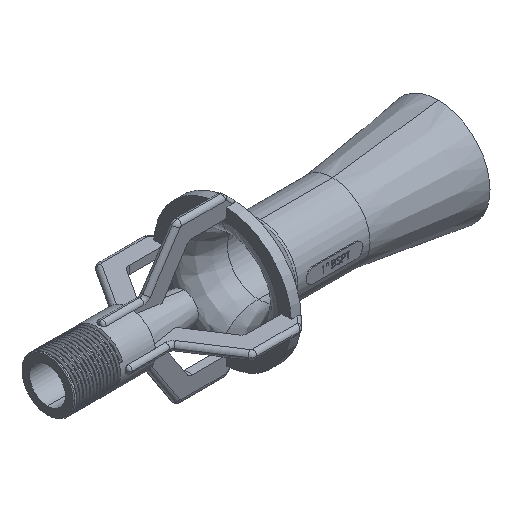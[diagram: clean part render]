
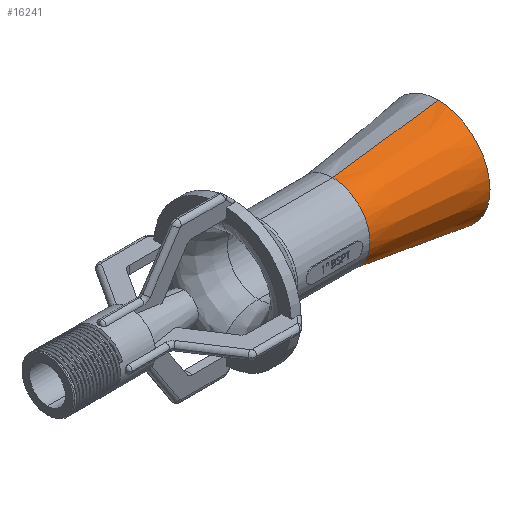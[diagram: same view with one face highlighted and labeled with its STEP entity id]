
A CAD part, isometric view. The second image highlights one B-rep face of the part: STEP entity #16241.
In plain terms, the highlighted conical face has half-angle 7.883 degrees and reference radius 32 mm.
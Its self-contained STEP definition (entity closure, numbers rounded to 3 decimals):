
#158 = VERTEX_POINT ( 'NONE', #2668 ) ;
#768 = CONICAL_SURFACE ( 'NONE', #11402, 32., 0.138 ) ;
#2182 = DIRECTION ( 'NONE',  ( 0., 0., 1. ) ) ;
#2657 = EDGE_CURVE ( 'NONE', #18870, #11357, #15760, .T. ) ;
#2668 = CARTESIAN_POINT ( 'NONE',  ( 176., 0., -23. ) ) ;
#2920 = DIRECTION ( 'NONE',  ( 1., 0., 0. ) ) ;
#3314 = EDGE_LOOP ( 'NONE', ( #12884, #16245, #13454, #12244 ) ) ;
#3519 = FACE_OUTER_BOUND ( 'NONE', #3314, .T. ) ;
#4059 = CARTESIAN_POINT ( 'NONE',  ( 241., 0., -32. ) ) ;
#4408 = EDGE_CURVE ( 'NONE', #158, #18870, #12743, .T. ) ;
#6863 = CARTESIAN_POINT ( 'NONE',  ( 241., 0., 0. ) ) ;
#6891 = VERTEX_POINT ( 'NONE', #12097 ) ;
#7083 = LINE ( 'NONE', #17723, #13727 ) ;
#7527 = AXIS2_PLACEMENT_3D ( 'NONE', #12258, #15323, #2182 ) ;
#9646 = EDGE_CURVE ( 'NONE', #6891, #11357, #7083, .T. ) ;
#9707 = AXIS2_PLACEMENT_3D ( 'NONE', #13447, #2920, #14594 ) ;
#9931 = EDGE_CURVE ( 'NONE', #6891, #158, #13709, .T. ) ;
#10041 = VECTOR ( 'NONE', #17782, 1000. ) ;
#11357 = VERTEX_POINT ( 'NONE', #14057 ) ;
#11401 = DIRECTION ( 'NONE',  ( 1., 0., 0. ) ) ;
#11402 = AXIS2_PLACEMENT_3D ( 'NONE', #6863, #11401, #18595 ) ;
#12097 = CARTESIAN_POINT ( 'NONE',  ( 176., 0., 23. ) ) ;
#12244 = ORIENTED_EDGE ( 'NONE', *, *, #2657, .T. ) ;
#12258 = CARTESIAN_POINT ( 'NONE',  ( 241., 0., 0. ) ) ;
#12743 = LINE ( 'NONE', #13711, #10041 ) ;
#12884 = ORIENTED_EDGE ( 'NONE', *, *, #9646, .F. ) ;
#13447 = CARTESIAN_POINT ( 'NONE',  ( 176., 0., 0. ) ) ;
#13454 = ORIENTED_EDGE ( 'NONE', *, *, #4408, .T. ) ;
#13709 = CIRCLE ( 'NONE', #9707, 23. ) ;
#13711 = CARTESIAN_POINT ( 'NONE',  ( 241., 0., -32. ) ) ;
#13727 = VECTOR ( 'NONE', #14797, 1000. ) ;
#14057 = CARTESIAN_POINT ( 'NONE',  ( 241., 0., 32. ) ) ;
#14594 = DIRECTION ( 'NONE',  ( 0., 0., -1. ) ) ;
#14797 = DIRECTION ( 'NONE',  ( 0.991, 0., 0.137 ) ) ;
#15323 = DIRECTION ( 'NONE',  ( -1., 0., 0. ) ) ;
#15760 = CIRCLE ( 'NONE', #7527, 32. ) ;
#16241 = ADVANCED_FACE ( 'NONE', ( #3519 ), #768, .T. ) ;
#16245 = ORIENTED_EDGE ( 'NONE', *, *, #9931, .T. ) ;
#17723 = CARTESIAN_POINT ( 'NONE',  ( 241., 0., 32. ) ) ;
#17782 = DIRECTION ( 'NONE',  ( 0.991, 0., -0.137 ) ) ;
#18595 = DIRECTION ( 'NONE',  ( 0., 0., -1. ) ) ;
#18870 = VERTEX_POINT ( 'NONE', #4059 ) ;
